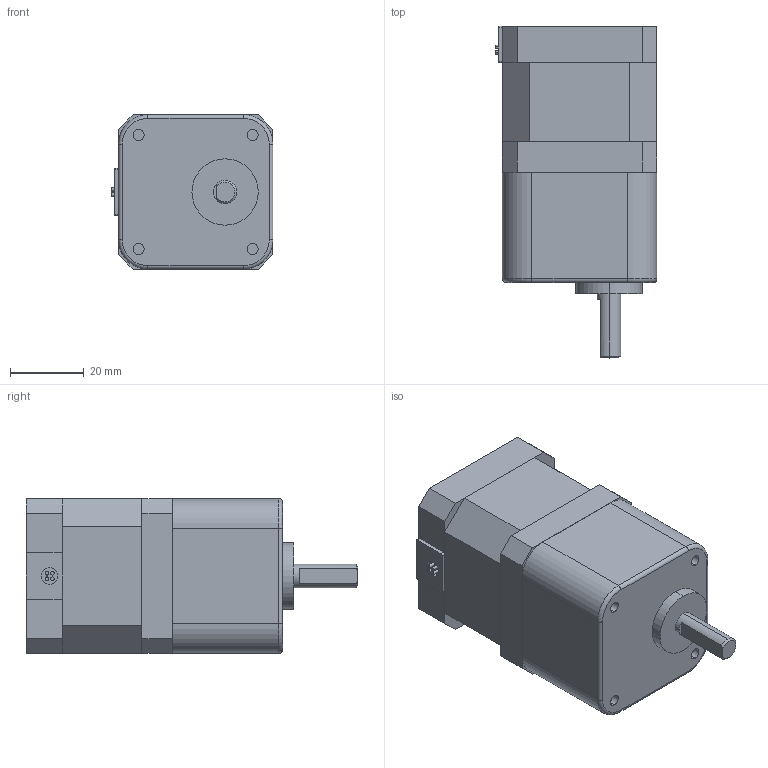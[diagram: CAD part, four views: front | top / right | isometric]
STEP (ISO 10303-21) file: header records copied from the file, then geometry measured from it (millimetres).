
FILE_DESCRIPTION((''),'2;1');
FILE_NAME('MT17HE17013M4G2_ASM','2018-04-12T09:55:22',('Matteo Maccalli'),(''),'CREO PARAMETRIC BY PTC INC, 2017260','CREO PARAMETRIC BY PTC INC, 2017260','');
FILE_SCHEMA(('AUTOMOTIVE_DESIGN { 1 0 10303 214 1 1 1 1 }'));
Length unit declared in the file: millimetre
Products named in the file (5): FRONT_FLANGE_MT17HE_H8E2_QUADR; STACK_MT17HE17_H21E5; REAR_FLANGE_MT17HE_QUADR_NO_CON; GEARBOX_MT17HE; MT17HE17013M4G2_ASM
Assembly tree (4 placements, depth 2):
  MT17HE17013M4G2_ASM
    FRONT_FLANGE_MT17HE_H8E2_QUADR
    STACK_MT17HE17_H21E5
    REAR_FLANGE_MT17HE_QUADR_NO_CON
    GEARBOX_MT17HE
Bounding box: 44 x 90.2 x 42 mm (x, y, z)
Volume: 119153.9 mm3; surface area: 26515.9 mm2
Topology: 4 solids, 12 shells, 151 faces, 363 edges, 238 vertices
Faces by surface type: cylinder 74, plane 64, cone 9, torus 4
Entity records: 6188 total; most frequent: DIRECTION 852, CARTESIAN_POINT 774, ORIENTED_EDGE 678, PRESENTATION_STYLE_ASSIGNMENT 395, STYLED_ITEM 375, CURVE_STYLE 355, EDGE_CURVE 355, AXIS2_PLACEMENT_3D 335
